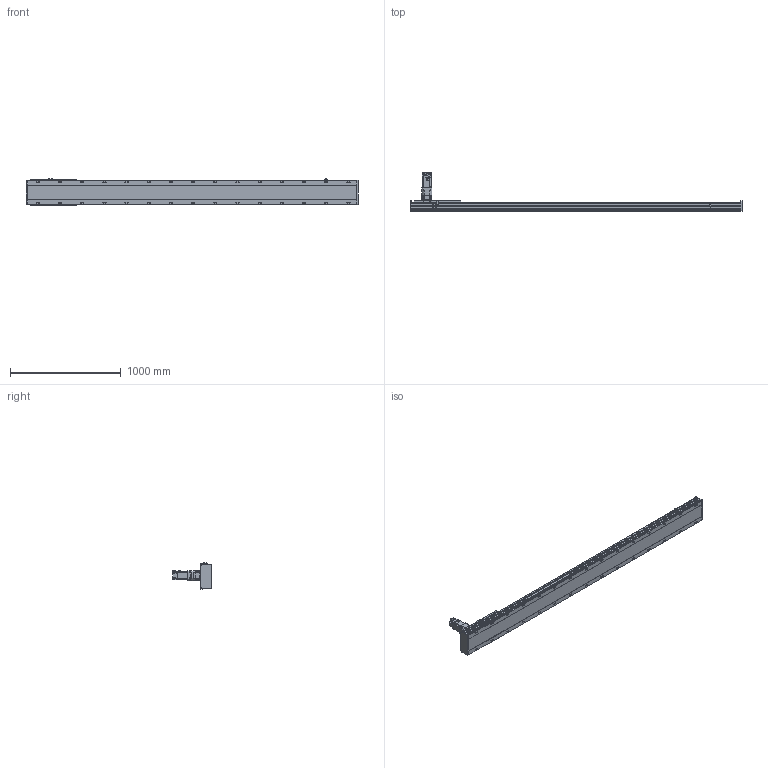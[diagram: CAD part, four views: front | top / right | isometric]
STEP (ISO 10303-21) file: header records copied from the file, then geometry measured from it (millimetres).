
FILE_DESCRIPTION(/* description */ ('STEP AP214'),/* implementation_level */ '2;1');
FILE_NAME(/* name */ 'SHS22A-L13-S2500-BC-T75-C1-N(0)',/* time_stamp */ '2022-06-15T02:27:35+02:00',/* author */ ('License CC BY-ND 4.0'),/* organization */ ('CADENAS'),/* preprocessor_version */ 'ST-DEVELOPER v18.102',/* originating_system */ 'PARTsolutions',/* authorisation */ ' ');
FILE_SCHEMA (('AUTOMOTIVE_DESIGN {1 0 10303 214 3 1 1}'));
Length unit declared in the file: millimetre
Products named in the file (7): SHS22A-L13-S2500-BC-T75-C1-N(0); PSC140-sensor; SHS22A-S2500_body2; T75-p1; SHS22A-S2500_body3; SHS22A-S2500_slider; SHS22A-L13-S2500-BC-T75-C1(0)_body
Assembly tree (13 placements, depth 2):
  SHS22A-L13-S2500-BC-T75-C1-N(0)
    PSC140-sensor  x3
    SHS22A-S2500_body2  x6
    T75-p1
    SHS22A-S2500_body3
    SHS22A-S2500_slider
    SHS22A-L13-S2500-BC-T75-C1(0)_body
Bounding box: 2994 x 350.8 x 238.4 mm (x, y, z)
Volume: 33203868.6 mm3; surface area: 3444180.3 mm2
Topology: 13 solids, 13 shells, 1881 faces, 4835 edges, 3166 vertices
Faces by surface type: plane 1340, cylinder 437, cone 95, torus 9
Full cylindrical faces by diameter (mm): 2.8 x3, 4.2 x2, 4.6 x3, 4.917 x4, 5 x4, 5.6 x24, 6 x31, 6.6 x24, 6.647 x8, 6.8 x9, 7.75 x6, 8 x3, 8.376 x30, 8.5 x30, 10 x4, 11 x4, 12 x24, 14 x30, 22 x1, 24.1 x1, 28 x1, 28.2 x1, 28.8 x1, 48.542 x1, 68 x1, 70 x1, 78 x1, 80 x2
Entity records: 31282 total; most frequent: CARTESIAN_POINT 5603, DIRECTION 5297, ORIENTED_EDGE 4800, EDGE_CURVE 2400, AXIS2_PLACEMENT_3D 1862, VERTEX_POINT 1726, FACE_BOUND 1630, EDGE_LOOP 1629
